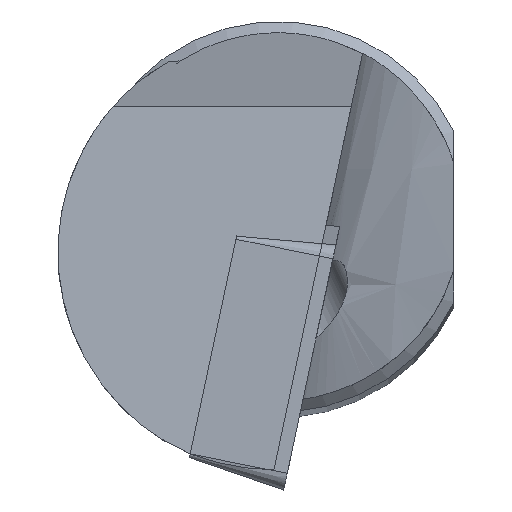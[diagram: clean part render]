
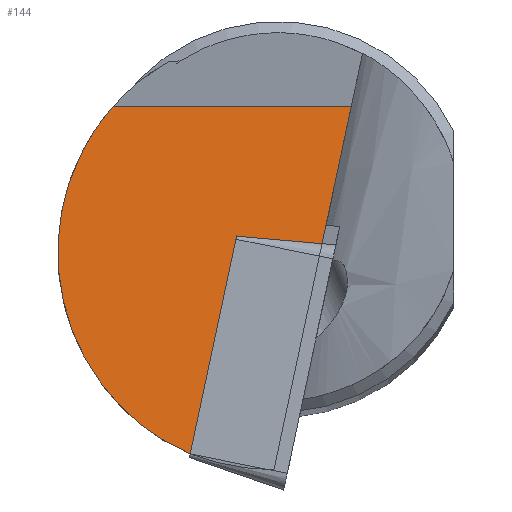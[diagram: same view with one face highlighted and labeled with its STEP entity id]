
A CAD part, top view. The second image highlights one B-rep face of the part: STEP entity #144.
In plain terms, the highlighted planar face has unit normal (0, 0.089, 0.996).
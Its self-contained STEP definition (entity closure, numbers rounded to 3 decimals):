
#69=PLANE('',#509);
#82=LINE('',#730,#108);
#83=LINE('',#732,#109);
#108=VECTOR('',#568,1.);
#109=VECTOR('',#569,1.);
#134=ELLIPSE('',#506,6.475,6.45);
#135=ELLIPSE('',#508,5.654,5.632);
#144=ADVANCED_FACE('',(#181),#69,.F.);
#181=FACE_OUTER_BOUND('',#204,.T.);
#204=EDGE_LOOP('',(#258,#259,#260,#261));
#258=ORIENTED_EDGE('',*,*,#426,.T.);
#259=ORIENTED_EDGE('',*,*,#429,.F.);
#260=ORIENTED_EDGE('',*,*,#430,.T.);
#261=ORIENTED_EDGE('',*,*,#431,.F.);
#382=VERTEX_POINT('',#714);
#383=VERTEX_POINT('',#715);
#384=VERTEX_POINT('',#731);
#385=VERTEX_POINT('',#733);
#426=EDGE_CURVE('',#382,#383,#134,.T.);
#429=EDGE_CURVE('',#384,#383,#82,.T.);
#430=EDGE_CURVE('',#384,#385,#83,.T.);
#431=EDGE_CURVE('',#382,#385,#135,.T.);
#506=AXIS2_PLACEMENT_3D('',#713,#564,#565);
#508=AXIS2_PLACEMENT_3D('',#734,#570,#571);
#509=AXIS2_PLACEMENT_3D('',#735,#572,#573);
#564=DIRECTION('',(0.,0.089,0.996));
#565=DIRECTION('',(0.,-0.996,0.089));
#568=DIRECTION('',(-0.207,-0.974,0.087));
#569=DIRECTION('',(-1.,0.,0.));
#570=DIRECTION('',(0.,-0.089,-0.996));
#571=DIRECTION('',(0.,-0.996,0.089));
#572=DIRECTION('',(0.,-0.089,-0.996));
#573=DIRECTION('',(0.,0.996,-0.089));
#713=CARTESIAN_POINT('',(0.,-0.05,-1.074));
#714=CARTESIAN_POINT('',(-2.247,-6.096,-0.533));
#715=CARTESIAN_POINT('',(-0.104,-6.499,-0.497));
#730=CARTESIAN_POINT('',(0.046,-5.795,-0.56));
#731=CARTESIAN_POINT('',(1.873,2.8,-1.329));
#732=CARTESIAN_POINT('',(-6.5,2.8,-1.329));
#733=CARTESIAN_POINT('',(-4.218,2.8,-1.329));
#734=CARTESIAN_POINT('',(0.,-0.932,-0.995));
#735=CARTESIAN_POINT('',(-6.5,-6.825,-0.468));
